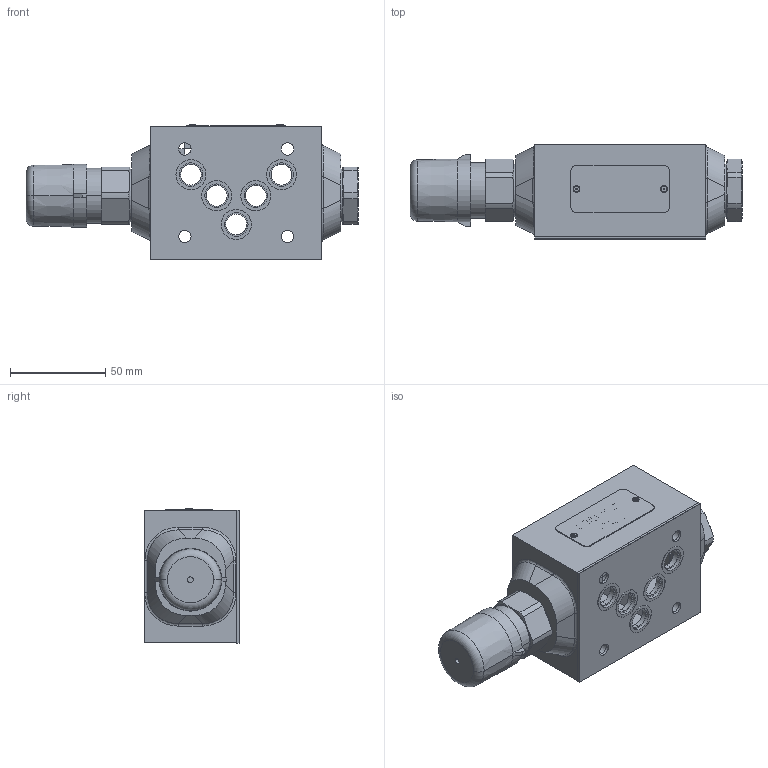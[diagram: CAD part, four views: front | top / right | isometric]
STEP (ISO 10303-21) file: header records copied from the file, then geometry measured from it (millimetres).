
FILE_DESCRIPTION((''),'2;1');
FILE_NAME('34545800_VSO3_10_MAT_ASM','2018-10-17T',('l.soukupova'),(''),'PRO/ENGINEER BY PARAMETRIC TECHNOLOGY CORPORATION, 2015440','PRO/ENGINEER BY PARAMETRIC TECHNOLOGY CORPORATION, 2015440','');
FILE_SCHEMA(('AUTOMOTIVE_DESIGN { 1 0 10303 214 1 1 1 1 }'));
Length unit declared in the file: millimetre
Products named in the file (20): 31453400_AF0; 31453500_AF0; 31454100_AF0; 31454300_AF3; ISO_4035_M8_202508_AF0; ISO_4762_M8X25_88_ZN_AF0; 31453300_AF0; ORIA00690_169519_AF0; 20116500_AF0; 31455000_AF0; 551_0200_AF2; RD_LABEL_25X52_159703; AF_1932_16485; BG2000220_242154_AF0; BG2000220_242154_AF1; OR2502150_201455_AF0; OR2502150_201455_AF1; 530_2091; DKAR00014_N70; 34545800_VSO3_10_MAT_ASM
Assembly tree (24 placements, depth 2):
  34545800_VSO3_10_MAT_ASM
    31453400_AF0
    31453500_AF0
    31454100_AF0
    31454300_AF3
    ISO_4035_M8_202508_AF0
    ISO_4762_M8X25_88_ZN_AF0
    31453300_AF0
    ORIA00690_169519_AF0
    20116500_AF0
    31455000_AF0
    551_0200_AF2
    RD_LABEL_25X52_159703
    AF_1932_16485  x2
    BG2000220_242154_AF0
    BG2000220_242154_AF1
    OR2502150_201455_AF0
    OR2502150_201455_AF1
    530_2091
    DKAR00014_N70  x5
Bounding box: 174.5 x 50.28 x 70.75 mm (x, y, z)
Volume: 217726.8 mm3; surface area: 94356.3 mm2
Topology: 19 solids, 29 shells, 990 faces, 2918 edges, 2172 vertices
Faces by surface type: plane 585, cylinder 252, cone 67, torus 56, bspline 24, sphere 6
Entity records: 52981 total; most frequent: CARTESIAN_POINT 11191, DIRECTION 5409, ORIENTED_EDGE 5038, PRESENTATION_STYLE_ASSIGNMENT 3800, STYLED_ITEM 3777, CURVE_STYLE 2954, EDGE_CURVE 2540, VECTOR 1961
